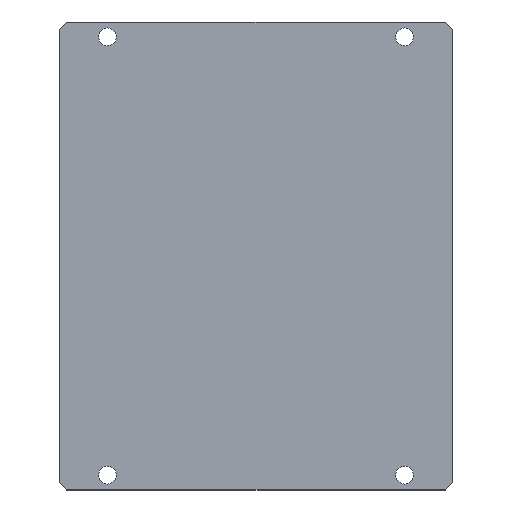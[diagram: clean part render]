
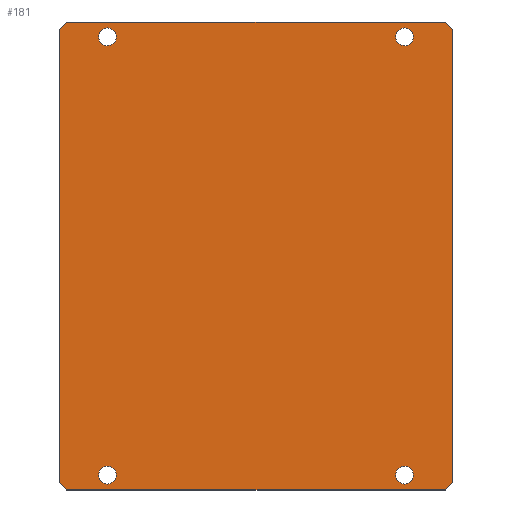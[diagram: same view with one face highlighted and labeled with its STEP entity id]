
A CAD part, top view. The second image highlights one B-rep face of the part: STEP entity #181.
In plain terms, the highlighted planar face has unit normal (0, 0, 1).
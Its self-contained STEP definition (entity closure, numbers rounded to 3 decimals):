
#10 = VERTEX_POINT ( 'NONE', #21 ) ;
#14 = FACE_BOUND ( 'NONE', #556, .T. ) ;
#21 = CARTESIAN_POINT ( 'NONE',  ( 18.8, -29.5, 0.5 ) ) ;
#22 = EDGE_CURVE ( 'NONE', #706, #731, #381, .T. ) ;
#24 = CARTESIAN_POINT ( 'NONE',  ( -21.2, -29.5, 0.5 ) ) ;
#28 = VERTEX_POINT ( 'NONE', #685 ) ;
#30 = LINE ( 'NONE', #533, #184 ) ;
#31 = CARTESIAN_POINT ( 'NONE',  ( -20., -29.5, 0.5 ) ) ;
#35 = DIRECTION ( 'NONE',  ( 0.707, -0.707, 0. ) ) ;
#39 = DIRECTION ( 'NONE',  ( 1., 0., 0. ) ) ;
#41 = EDGE_CURVE ( 'NONE', #456, #318, #589, .T. ) ;
#56 = FACE_OUTER_BOUND ( 'NONE', #720, .T. ) ;
#60 = VERTEX_POINT ( 'NONE', #91 ) ;
#74 = EDGE_LOOP ( 'NONE', ( #79, #303 ) ) ;
#76 = EDGE_CURVE ( 'NONE', #731, #212, #678, .T. ) ;
#77 = CARTESIAN_POINT ( 'NONE',  ( -57.5, -0.5, 0.5 ) ) ;
#79 = ORIENTED_EDGE ( 'NONE', *, *, #362, .F. ) ;
#83 = AXIS2_PLACEMENT_3D ( 'NONE', #31, #282, #688 ) ;
#88 = CIRCLE ( 'NONE', #694, 1.2 ) ;
#91 = CARTESIAN_POINT ( 'NONE',  ( -26.5, 30.5, 0.5 ) ) ;
#97 = AXIS2_PLACEMENT_3D ( 'NONE', #214, #641, #278 ) ;
#105 = PLANE ( 'NONE',  #389 ) ;
#106 = ORIENTED_EDGE ( 'NONE', *, *, #41, .F. ) ;
#116 = DIRECTION ( 'NONE',  ( 1., 0., 0. ) ) ;
#122 = EDGE_CURVE ( 'NONE', #10, #236, #88, .T. ) ;
#124 = ORIENTED_EDGE ( 'NONE', *, *, #591, .T. ) ;
#139 = CIRCLE ( 'NONE', #83, 1.2 ) ;
#140 = EDGE_CURVE ( 'NONE', #60, #270, #481, .T. ) ;
#141 = VERTEX_POINT ( 'NONE', #493 ) ;
#142 = DIRECTION ( 'NONE',  ( 0., 0., 1. ) ) ;
#143 = ORIENTED_EDGE ( 'NONE', *, *, #782, .F. ) ;
#146 = ORIENTED_EDGE ( 'NONE', *, *, #165, .T. ) ;
#148 = VECTOR ( 'NONE', #35, 1000. ) ;
#149 = DIRECTION ( 'NONE',  ( -0.707, -0.707, 0. ) ) ;
#152 = CARTESIAN_POINT ( 'NONE',  ( -0.5, -57.5, 0.5 ) ) ;
#154 = CARTESIAN_POINT ( 'NONE',  ( -26., -31., 0.5 ) ) ;
#156 = AXIS2_PLACEMENT_3D ( 'NONE', #684, #142, #332 ) ;
#165 = EDGE_CURVE ( 'NONE', #28, #706, #457, .T. ) ;
#171 = CARTESIAN_POINT ( 'NONE',  ( -25.5, 31.5, 0.5 ) ) ;
#178 = VECTOR ( 'NONE', #573, 1000. ) ;
#179 = DIRECTION ( 'NONE',  ( 0., 0., 1. ) ) ;
#181 = ADVANCED_FACE ( 'NONE', ( #253, #14, #495, #369, #56 ), #105, .T. ) ;
#183 = VERTEX_POINT ( 'NONE', #171 ) ;
#184 = VECTOR ( 'NONE', #762, 1000. ) ;
#187 = VERTEX_POINT ( 'NONE', #606 ) ;
#196 = DIRECTION ( 'NONE',  ( 0., 0., 1. ) ) ;
#203 = LINE ( 'NONE', #154, #148 ) ;
#207 = EDGE_LOOP ( 'NONE', ( #786, #143 ) ) ;
#208 = CARTESIAN_POINT ( 'NONE',  ( -20., 29.5, 0.5 ) ) ;
#210 = CARTESIAN_POINT ( 'NONE',  ( 20., -29.5, 0.5 ) ) ;
#212 = VERTEX_POINT ( 'NONE', #474 ) ;
#214 = CARTESIAN_POINT ( 'NONE',  ( 20., 29.5, 0.5 ) ) ;
#216 = DIRECTION ( 'NONE',  ( 0., 0., 1. ) ) ;
#218 = DIRECTION ( 'NONE',  ( 0., 1., 0. ) ) ;
#224 = CARTESIAN_POINT ( 'NONE',  ( -21.2, 29.5, 0.5 ) ) ;
#227 = ORIENTED_EDGE ( 'NONE', *, *, #242, .F. ) ;
#236 = VERTEX_POINT ( 'NONE', #380 ) ;
#242 = EDGE_CURVE ( 'NONE', #318, #456, #363, .T. ) ;
#243 = EDGE_CURVE ( 'NONE', #270, #28, #203, .T. ) ;
#253 = FACE_BOUND ( 'NONE', #357, .T. ) ;
#259 = ORIENTED_EDGE ( 'NONE', *, *, #324, .F. ) ;
#270 = VERTEX_POINT ( 'NONE', #406 ) ;
#278 = DIRECTION ( 'NONE',  ( 1., 0., 0. ) ) ;
#282 = DIRECTION ( 'NONE',  ( 0., 0., 1. ) ) ;
#286 = LINE ( 'NONE', #505, #623 ) ;
#294 = ORIENTED_EDGE ( 'NONE', *, *, #715, .F. ) ;
#299 = AXIS2_PLACEMENT_3D ( 'NONE', #208, #759, #691 ) ;
#303 = ORIENTED_EDGE ( 'NONE', *, *, #122, .F. ) ;
#309 = AXIS2_PLACEMENT_3D ( 'NONE', #410, #216, #39 ) ;
#318 = VERTEX_POINT ( 'NONE', #644 ) ;
#324 = EDGE_CURVE ( 'NONE', #722, #692, #610, .T. ) ;
#331 = VECTOR ( 'NONE', #116, 1000. ) ;
#332 = DIRECTION ( 'NONE',  ( 1., 0., 0. ) ) ;
#336 = AXIS2_PLACEMENT_3D ( 'NONE', #210, #338, #746 ) ;
#338 = DIRECTION ( 'NONE',  ( 0., 0., 1. ) ) ;
#357 = EDGE_LOOP ( 'NONE', ( #227, #106 ) ) ;
#362 = EDGE_CURVE ( 'NONE', #236, #10, #551, .T. ) ;
#363 = CIRCLE ( 'NONE', #299, 1.2 ) ;
#366 = VECTOR ( 'NONE', #452, 1000. ) ;
#369 = FACE_BOUND ( 'NONE', #207, .T. ) ;
#374 = ORIENTED_EDGE ( 'NONE', *, *, #22, .T. ) ;
#378 = CARTESIAN_POINT ( 'NONE',  ( 20., -29.5, 0.5 ) ) ;
#380 = CARTESIAN_POINT ( 'NONE',  ( 21.2, -29.5, 0.5 ) ) ;
#381 = LINE ( 'NONE', #152, #366 ) ;
#389 = AXIS2_PLACEMENT_3D ( 'NONE', #548, #179, #705 ) ;
#403 = EDGE_CURVE ( 'NONE', #212, #141, #30, .T. ) ;
#406 = CARTESIAN_POINT ( 'NONE',  ( -26.5, -30.5, 0.5 ) ) ;
#408 = DIRECTION ( 'NONE',  ( 0., 0., 1. ) ) ;
#410 = CARTESIAN_POINT ( 'NONE',  ( 20., 29.5, 0.5 ) ) ;
#411 = ORIENTED_EDGE ( 'NONE', *, *, #76, .T. ) ;
#422 = ORIENTED_EDGE ( 'NONE', *, *, #600, .T. ) ;
#424 = CARTESIAN_POINT ( 'NONE',  ( -26.5, -31.5, 0.5 ) ) ;
#428 = VECTOR ( 'NONE', #218, 1000. ) ;
#452 = DIRECTION ( 'NONE',  ( 0.707, 0.707, 0. ) ) ;
#456 = VERTEX_POINT ( 'NONE', #224 ) ;
#457 = LINE ( 'NONE', #424, #331 ) ;
#461 = CARTESIAN_POINT ( 'NONE',  ( 21.2, 29.5, 0.5 ) ) ;
#469 = CARTESIAN_POINT ( 'NONE',  ( 25.5, -31.5, 0.5 ) ) ;
#474 = CARTESIAN_POINT ( 'NONE',  ( 26.5, 30.5, 0.5 ) ) ;
#475 = LINE ( 'NONE', #77, #738 ) ;
#481 = LINE ( 'NONE', #559, #178 ) ;
#493 = CARTESIAN_POINT ( 'NONE',  ( 25.5, 31.5, 0.5 ) ) ;
#495 = FACE_BOUND ( 'NONE', #74, .T. ) ;
#497 = ORIENTED_EDGE ( 'NONE', *, *, #403, .T. ) ;
#504 = DIRECTION ( 'NONE',  ( -1., 0., 0. ) ) ;
#505 = CARTESIAN_POINT ( 'NONE',  ( -26.5, 31.5, 0.5 ) ) ;
#508 = ORIENTED_EDGE ( 'NONE', *, *, #243, .T. ) ;
#525 = CARTESIAN_POINT ( 'NONE',  ( -20., 29.5, 0.5 ) ) ;
#530 = CARTESIAN_POINT ( 'NONE',  ( 26.5, -30.5, 0.5 ) ) ;
#531 = DIRECTION ( 'NONE',  ( 1., 0., 0. ) ) ;
#533 = CARTESIAN_POINT ( 'NONE',  ( 31., 26., 0.5 ) ) ;
#548 = CARTESIAN_POINT ( 'NONE',  ( -26.5, -31.5, 0.5 ) ) ;
#550 = ORIENTED_EDGE ( 'NONE', *, *, #140, .T. ) ;
#551 = CIRCLE ( 'NONE', #336, 1.2 ) ;
#556 = EDGE_LOOP ( 'NONE', ( #294, #259 ) ) ;
#559 = CARTESIAN_POINT ( 'NONE',  ( -26.5, 31.5, 0.5 ) ) ;
#564 = DIRECTION ( 'NONE',  ( 1., 0., 0. ) ) ;
#573 = DIRECTION ( 'NONE',  ( 0., -1., 0. ) ) ;
#589 = CIRCLE ( 'NONE', #634, 1.2 ) ;
#591 = EDGE_CURVE ( 'NONE', #141, #183, #286, .T. ) ;
#598 = CIRCLE ( 'NONE', #309, 1.2 ) ;
#600 = EDGE_CURVE ( 'NONE', #183, #60, #475, .T. ) ;
#606 = CARTESIAN_POINT ( 'NONE',  ( -18.8, -29.5, 0.5 ) ) ;
#610 = CIRCLE ( 'NONE', #97, 1.2 ) ;
#623 = VECTOR ( 'NONE', #504, 1000. ) ;
#634 = AXIS2_PLACEMENT_3D ( 'NONE', #525, #408, #531 ) ;
#641 = DIRECTION ( 'NONE',  ( 0., 0., 1. ) ) ;
#644 = CARTESIAN_POINT ( 'NONE',  ( -18.8, 29.5, 0.5 ) ) ;
#646 = CARTESIAN_POINT ( 'NONE',  ( 18.8, 29.5, 0.5 ) ) ;
#659 = EDGE_CURVE ( 'NONE', #187, #773, #783, .T. ) ;
#678 = LINE ( 'NONE', #751, #428 ) ;
#684 = CARTESIAN_POINT ( 'NONE',  ( -20., -29.5, 0.5 ) ) ;
#685 = CARTESIAN_POINT ( 'NONE',  ( -25.5, -31.5, 0.5 ) ) ;
#688 = DIRECTION ( 'NONE',  ( 1., 0., 0. ) ) ;
#691 = DIRECTION ( 'NONE',  ( 1., 0., 0. ) ) ;
#692 = VERTEX_POINT ( 'NONE', #461 ) ;
#694 = AXIS2_PLACEMENT_3D ( 'NONE', #378, #196, #564 ) ;
#705 = DIRECTION ( 'NONE',  ( 1., 0., 0. ) ) ;
#706 = VERTEX_POINT ( 'NONE', #469 ) ;
#715 = EDGE_CURVE ( 'NONE', #692, #722, #598, .T. ) ;
#720 = EDGE_LOOP ( 'NONE', ( #124, #422, #550, #508, #146, #374, #411, #497 ) ) ;
#722 = VERTEX_POINT ( 'NONE', #646 ) ;
#731 = VERTEX_POINT ( 'NONE', #530 ) ;
#738 = VECTOR ( 'NONE', #149, 1000. ) ;
#746 = DIRECTION ( 'NONE',  ( 1., 0., 0. ) ) ;
#751 = CARTESIAN_POINT ( 'NONE',  ( 26.5, 31.5, 0.5 ) ) ;
#759 = DIRECTION ( 'NONE',  ( 0., 0., 1. ) ) ;
#762 = DIRECTION ( 'NONE',  ( -0.707, 0.707, 0. ) ) ;
#773 = VERTEX_POINT ( 'NONE', #24 ) ;
#782 = EDGE_CURVE ( 'NONE', #773, #187, #139, .T. ) ;
#783 = CIRCLE ( 'NONE', #156, 1.2 ) ;
#786 = ORIENTED_EDGE ( 'NONE', *, *, #659, .F. ) ;
